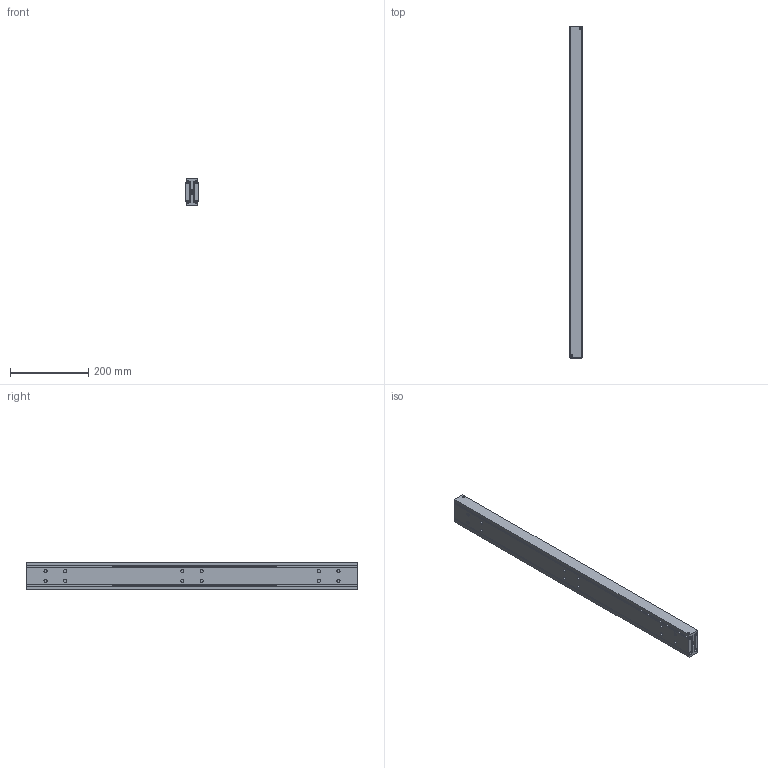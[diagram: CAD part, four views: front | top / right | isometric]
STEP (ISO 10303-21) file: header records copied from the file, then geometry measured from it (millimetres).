
FILE_DESCRIPTION(/* description */ (''),/* implementation_level */ '2;1');
FILE_NAME(/* name */ 'D:\Zeichnungen Schienen Komplett\MX-DTP70\MX-DTP70.085\MX-DTP70.085_eingefahren.step',/* time_stamp */ '2022-03-03T13:30:45+01:00',/* author */ ('zmile'),/* organization */ (''),/* preprocessor_version */ 'ST-DEVELOPER v16.13',/* originating_system */ 'AutoCAD Mechanical',/* authorisation */ '');
FILE_SCHEMA (('AUTOMOTIVE_DESIGN { 1 0 10303 214 3 1 1 }'));
Length unit declared in the file: millimetre
Products named in the file (1): Product
Bounding box: 32 x 850 x 70.6 mm (x, y, z)
Volume: 1449217.5 mm3; surface area: 538575.1 mm2
Topology: 59 solids, 63 shells, 306 faces, 950 edges, 666 vertices
Faces by surface type: plane 124, cylinder 60, sphere 56, bspline 50, torus 12, cone 4
Full cylindrical faces by diameter (mm): 8 x24, 13 x2
Entity records: 13521 total; most frequent: CARTESIAN_POINT 5723, ORIENTED_EDGE 1424, DIRECTION 1414, EDGE_CURVE 784, VERTEX_POINT 654, AXIS2_PLACEMENT_3D 559, EDGE_LOOP 528, FACE_OUTER_BOUND 306
